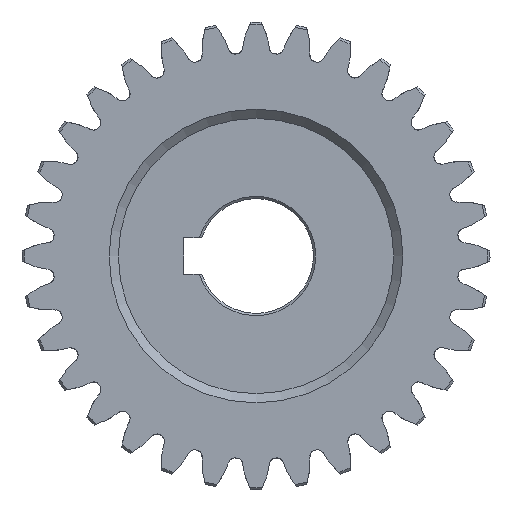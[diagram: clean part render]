
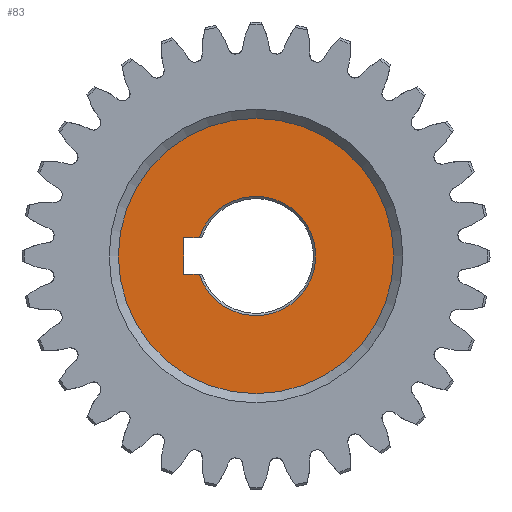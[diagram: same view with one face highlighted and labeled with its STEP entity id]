
A CAD part, left-side view. The second image highlights one B-rep face of the part: STEP entity #83.
In plain terms, the highlighted planar face has unit normal (-1, 0, 0).
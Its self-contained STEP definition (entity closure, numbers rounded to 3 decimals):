
#83=ADVANCED_FACE('',(#2540,#2542),#2544,.T.);
#2540=FACE_BOUND('',#2541,.T.);
#2541=EDGE_LOOP('',(#4328));
#2542=FACE_BOUND('',#2543,.T.);
#2543=EDGE_LOOP('',(#4329,#4330,#4331,#4332,#4333,#4334));
#2544=PLANE('',#2545);
#2545=AXIS2_PLACEMENT_3D('',#2546,#2547,#2548);
#2546=CARTESIAN_POINT('',(8.,0.,0.));
#2547=DIRECTION('',(-1.,-0.,-0.));
#2548=DIRECTION('',(0.,0.,-1.));
#4328=ORIENTED_EDGE('',*,*,#6947,.T.);
#4329=ORIENTED_EDGE('',*,*,#6948,.T.);
#4330=ORIENTED_EDGE('',*,*,#6940,.F.);
#4331=ORIENTED_EDGE('',*,*,#6949,.T.);
#4332=ORIENTED_EDGE('',*,*,#6950,.T.);
#4333=ORIENTED_EDGE('',*,*,#6951,.T.);
#4334=ORIENTED_EDGE('',*,*,#6952,.T.);
#6940=EDGE_CURVE('',#7744,#7739,#7746,.F.);
#6947=EDGE_CURVE('',#7758,#7758,#7759,.T.);
#6948=EDGE_CURVE('',#7760,#7739,#7761,.F.);
#6949=EDGE_CURVE('',#7744,#7762,#7763,.F.);
#6950=EDGE_CURVE('',#7762,#7764,#7765,.F.);
#6951=EDGE_CURVE('',#7764,#7766,#7767,.F.);
#6952=EDGE_CURVE('',#7766,#7760,#7768,.F.);
#7739=VERTEX_POINT('',#9087);
#7744=VERTEX_POINT('',#9100);
#7746=CIRCLE('',#9107,13.);
#7758=VERTEX_POINT('',#9137);
#7759=CIRCLE('',#9138,30.);
#7760=VERTEX_POINT('',#9142);
#7761=LINE('',#9143,#9144);
#7762=VERTEX_POINT('',#9146);
#7763=LINE('',#9147,#9148);
#7764=VERTEX_POINT('',#9150);
#7765=CIRCLE('',#9151,0.25);
#7766=VERTEX_POINT('',#9155);
#7767=LINE('',#9156,#9157);
#7768=CIRCLE('',#9159,0.25);
#9087=CARTESIAN_POINT('',(8.,12.369,4.));
#9100=CARTESIAN_POINT('',(8.,12.369,-4.));
#9107=AXIS2_PLACEMENT_3D('',#9108,#9109,#9110);
#9108=CARTESIAN_POINT('',(8.,0.,0.));
#9109=DIRECTION('',(1.,0.,0.));
#9110=DIRECTION('',(0.,0.951,0.308));
#9137=CARTESIAN_POINT('',(8.,0.,-30.));
#9138=AXIS2_PLACEMENT_3D('',#9139,#9140,#9141);
#9139=CARTESIAN_POINT('',(8.,0.,0.));
#9140=DIRECTION('',(-1.,-0.,-0.));
#9141=DIRECTION('',(0.,0.,-1.));
#9142=CARTESIAN_POINT('',(8.,15.55,4.));
#9143=CARTESIAN_POINT('',(8.,12.369,4.));
#9144=VECTOR('',#9145,1.);
#9145=DIRECTION('',(0.,1.,0.));
#9146=CARTESIAN_POINT('',(8.,15.55,-4.));
#9147=CARTESIAN_POINT('',(8.,15.55,-4.));
#9148=VECTOR('',#9149,1.);
#9149=DIRECTION('',(0.,-1.,0.));
#9150=CARTESIAN_POINT('',(8.,15.8,-3.75));
#9151=AXIS2_PLACEMENT_3D('',#9152,#9153,#9154);
#9152=CARTESIAN_POINT('',(8.,15.55,-3.75));
#9153=DIRECTION('',(-1.,0.,0.));
#9154=DIRECTION('',(0.,1.,0.));
#9155=CARTESIAN_POINT('',(8.,15.8,3.75));
#9156=CARTESIAN_POINT('',(8.,15.8,3.75));
#9157=VECTOR('',#9158,1.);
#9158=DIRECTION('',(0.,0.,-1.));
#9159=AXIS2_PLACEMENT_3D('',#9160,#9161,#9162);
#9160=CARTESIAN_POINT('',(8.,15.55,3.75));
#9161=DIRECTION('',(-1.,0.,0.));
#9162=DIRECTION('',(0.,0.,1.));
